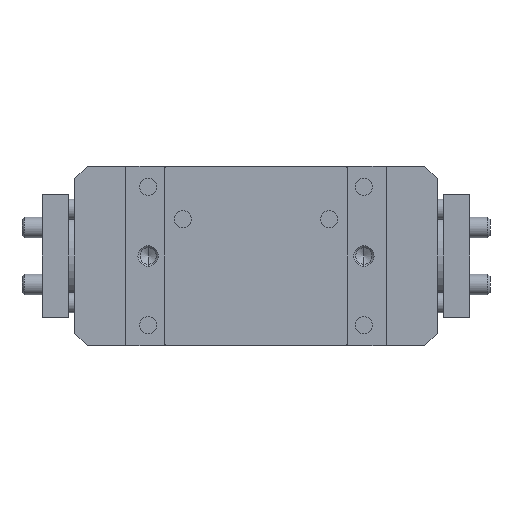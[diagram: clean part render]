
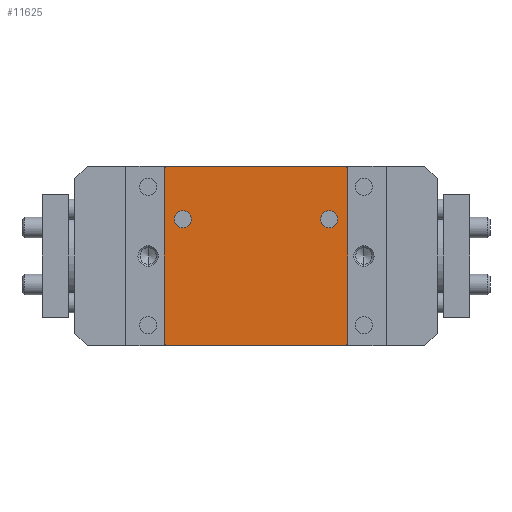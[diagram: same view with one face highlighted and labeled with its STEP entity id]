
A CAD part, front view. The second image highlights one B-rep face of the part: STEP entity #11625.
In plain terms, the highlighted planar face has unit normal (0, -1, 0).
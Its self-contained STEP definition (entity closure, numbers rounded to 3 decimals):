
#151 = CIRCLE ( 'NONE', #9202, 2.1 ) ;
#431 = EDGE_CURVE ( 'NONE', #9430, #2932, #41733, .T. ) ;
#578 = LINE ( 'NONE', #6302, #9438 ) ;
#860 = CARTESIAN_POINT ( 'NONE',  ( -22.5, 0., 22. ) ) ;
#935 = FACE_BOUND ( 'NONE', #38344, .T. ) ;
#1006 = EDGE_LOOP ( 'NONE', ( #31446, #39205 ) ) ;
#1228 = ORIENTED_EDGE ( 'NONE', *, *, #44290, .T. ) ;
#2705 = EDGE_CURVE ( 'NONE', #2932, #9430, #16689, .T. ) ;
#2932 = VERTEX_POINT ( 'NONE', #32650 ) ;
#3236 = DIRECTION ( 'NONE',  ( 0.707, 0., 0.707 ) ) ;
#3587 = ORIENTED_EDGE ( 'NONE', *, *, #25012, .T. ) ;
#4621 = CARTESIAN_POINT ( 'NONE',  ( 18., 0., 9. ) ) ;
#4841 = EDGE_CURVE ( 'NONE', #40672, #30666, #578, .T. ) ;
#5576 = AXIS2_PLACEMENT_3D ( 'NONE', #38879, #16157, #42709 ) ;
#5775 = CARTESIAN_POINT ( 'NONE',  ( -22.5, 0., 22. ) ) ;
#6098 = CARTESIAN_POINT ( 'NONE',  ( 22., 0., -22. ) ) ;
#6177 = CARTESIAN_POINT ( 'NONE',  ( -22., 0., -22. ) ) ;
#6302 = CARTESIAN_POINT ( 'NONE',  ( 22.5, 0., 21.5 ) ) ;
#7194 = DIRECTION ( 'NONE',  ( -1., 0., 0. ) ) ;
#7722 = EDGE_CURVE ( 'NONE', #31275, #37345, #41969, .T. ) ;
#7903 = LINE ( 'NONE', #33861, #38138 ) ;
#8434 = DIRECTION ( 'NONE',  ( 0., 0., -1. ) ) ;
#8807 = VERTEX_POINT ( 'NONE', #34103 ) ;
#9202 = AXIS2_PLACEMENT_3D ( 'NONE', #4621, #31099, #8434 ) ;
#9430 = VERTEX_POINT ( 'NONE', #21554 ) ;
#9438 = VECTOR ( 'NONE', #40463, 1000. ) ;
#9460 = ORIENTED_EDGE ( 'NONE', *, *, #4841, .T. ) ;
#9551 = DIRECTION ( 'NONE',  ( 0., 0., -1. ) ) ;
#10256 = DIRECTION ( 'NONE',  ( 1., 0., 0. ) ) ;
#10622 = VERTEX_POINT ( 'NONE', #6177 ) ;
#10851 = EDGE_CURVE ( 'NONE', #38877, #19933, #27609, .T. ) ;
#11625 = ADVANCED_FACE ( 'NONE', ( #29927, #40056, #935 ), #43411, .T. ) ;
#11684 = VECTOR ( 'NONE', #23541, 1000. ) ;
#13423 = CARTESIAN_POINT ( 'NONE',  ( -22., 0., 22. ) ) ;
#13656 = DIRECTION ( 'NONE',  ( 0., 1., 0. ) ) ;
#14597 = VERTEX_POINT ( 'NONE', #6098 ) ;
#15622 = VECTOR ( 'NONE', #34082, 1000. ) ;
#16157 = DIRECTION ( 'NONE',  ( 0., 1., 0. ) ) ;
#16689 = CIRCLE ( 'NONE', #5576, 2.1 ) ;
#18915 = CARTESIAN_POINT ( 'NONE',  ( 18., 0., 9. ) ) ;
#18942 = AXIS2_PLACEMENT_3D ( 'NONE', #36372, #13656, #40214 ) ;
#19048 = CARTESIAN_POINT ( 'NONE',  ( 22.5, 0., 21.5 ) ) ;
#19929 = LINE ( 'NONE', #28642, #48982 ) ;
#19933 = VERTEX_POINT ( 'NONE', #21372 ) ;
#21372 = CARTESIAN_POINT ( 'NONE',  ( 18., 0., 6.9 ) ) ;
#21451 = LINE ( 'NONE', #41061, #31553 ) ;
#21554 = CARTESIAN_POINT ( 'NONE',  ( -18., 0., 11.1 ) ) ;
#21912 = ORIENTED_EDGE ( 'NONE', *, *, #10851, .T. ) ;
#22502 = ORIENTED_EDGE ( 'NONE', *, *, #45070, .T. ) ;
#22735 = DIRECTION ( 'NONE',  ( 0., 0., -1. ) ) ;
#23541 = DIRECTION ( 'NONE',  ( 0., 0., -1. ) ) ;
#23793 = ORIENTED_EDGE ( 'NONE', *, *, #7722, .T. ) ;
#24285 = EDGE_CURVE ( 'NONE', #8807, #40672, #24558, .T. ) ;
#24306 = ORIENTED_EDGE ( 'NONE', *, *, #46131, .T. ) ;
#24558 = LINE ( 'NONE', #44888, #44742 ) ;
#25012 = EDGE_CURVE ( 'NONE', #10622, #14597, #29232, .T. ) ;
#27609 = CIRCLE ( 'NONE', #39979, 2.1 ) ;
#28597 = CARTESIAN_POINT ( 'NONE',  ( -22.5, 0., 21.5 ) ) ;
#28634 = EDGE_CURVE ( 'NONE', #37345, #10622, #19929, .T. ) ;
#28642 = CARTESIAN_POINT ( 'NONE',  ( -22.5, 0., -21.5 ) ) ;
#28959 = ORIENTED_EDGE ( 'NONE', *, *, #31437, .T. ) ;
#29232 = LINE ( 'NONE', #29295, #30463 ) ;
#29295 = CARTESIAN_POINT ( 'NONE',  ( -22.5, 0., -22. ) ) ;
#29927 = FACE_OUTER_BOUND ( 'NONE', #42575, .T. ) ;
#30463 = VECTOR ( 'NONE', #10256, 1000. ) ;
#30666 = VERTEX_POINT ( 'NONE', #36935 ) ;
#31099 = DIRECTION ( 'NONE',  ( 0., 1., 0. ) ) ;
#31275 = VERTEX_POINT ( 'NONE', #28597 ) ;
#31437 = EDGE_CURVE ( 'NONE', #38648, #31275, #47079, .T. ) ;
#31446 = ORIENTED_EDGE ( 'NONE', *, *, #2705, .T. ) ;
#31553 = VECTOR ( 'NONE', #3236, 1000. ) ;
#32247 = DIRECTION ( 'NONE',  ( 0., -1., 0. ) ) ;
#32650 = CARTESIAN_POINT ( 'NONE',  ( -18., 0., 6.9 ) ) ;
#33572 = DIRECTION ( 'NONE',  ( 0., 0., 1. ) ) ;
#33861 = CARTESIAN_POINT ( 'NONE',  ( -22.5, 0., 22. ) ) ;
#34082 = DIRECTION ( 'NONE',  ( -0.707, 0., -0.707 ) ) ;
#34103 = CARTESIAN_POINT ( 'NONE',  ( 22.5, 0., -21.5 ) ) ;
#34437 = ORIENTED_EDGE ( 'NONE', *, *, #28634, .T. ) ;
#34809 = CARTESIAN_POINT ( 'NONE',  ( 18., 0., 11.1 ) ) ;
#36372 = CARTESIAN_POINT ( 'NONE',  ( -18., 0., 9. ) ) ;
#36935 = CARTESIAN_POINT ( 'NONE',  ( 22., 0., 22. ) ) ;
#37345 = VERTEX_POINT ( 'NONE', #43776 ) ;
#38138 = VECTOR ( 'NONE', #7194, 1000. ) ;
#38344 = EDGE_LOOP ( 'NONE', ( #24306, #21912 ) ) ;
#38648 = VERTEX_POINT ( 'NONE', #13423 ) ;
#38877 = VERTEX_POINT ( 'NONE', #34809 ) ;
#38879 = CARTESIAN_POINT ( 'NONE',  ( -18., 0., 9. ) ) ;
#39205 = ORIENTED_EDGE ( 'NONE', *, *, #431, .T. ) ;
#39979 = AXIS2_PLACEMENT_3D ( 'NONE', #18915, #45451, #22735 ) ;
#40056 = FACE_BOUND ( 'NONE', #1006, .T. ) ;
#40214 = DIRECTION ( 'NONE',  ( 0., 0., -1. ) ) ;
#40463 = DIRECTION ( 'NONE',  ( -0.707, 0., 0.707 ) ) ;
#40672 = VERTEX_POINT ( 'NONE', #19048 ) ;
#41061 = CARTESIAN_POINT ( 'NONE',  ( 22., 0., -22. ) ) ;
#41733 = CIRCLE ( 'NONE', #18942, 2.1 ) ;
#41969 = LINE ( 'NONE', #860, #11684 ) ;
#42137 = ORIENTED_EDGE ( 'NONE', *, *, #24285, .T. ) ;
#42575 = EDGE_LOOP ( 'NONE', ( #23793, #34437, #3587, #1228, #42137, #9460, #22502, #28959 ) ) ;
#42709 = DIRECTION ( 'NONE',  ( 0., 0., -1. ) ) ;
#43411 = PLANE ( 'NONE',  #46679 ) ;
#43776 = CARTESIAN_POINT ( 'NONE',  ( -22.5, 0., -21.5 ) ) ;
#44290 = EDGE_CURVE ( 'NONE', #14597, #8807, #21451, .T. ) ;
#44742 = VECTOR ( 'NONE', #33572, 1000. ) ;
#44888 = CARTESIAN_POINT ( 'NONE',  ( 22.5, 0., 22. ) ) ;
#45070 = EDGE_CURVE ( 'NONE', #30666, #38648, #7903, .T. ) ;
#45451 = DIRECTION ( 'NONE',  ( 0., 1., 0. ) ) ;
#46131 = EDGE_CURVE ( 'NONE', #19933, #38877, #151, .T. ) ;
#46679 = AXIS2_PLACEMENT_3D ( 'NONE', #5775, #32247, #9551 ) ;
#47079 = LINE ( 'NONE', #49211, #15622 ) ;
#47590 = DIRECTION ( 'NONE',  ( 0.707, 0., -0.707 ) ) ;
#48982 = VECTOR ( 'NONE', #47590, 1000. ) ;
#49211 = CARTESIAN_POINT ( 'NONE',  ( -22., 0., 22. ) ) ;
